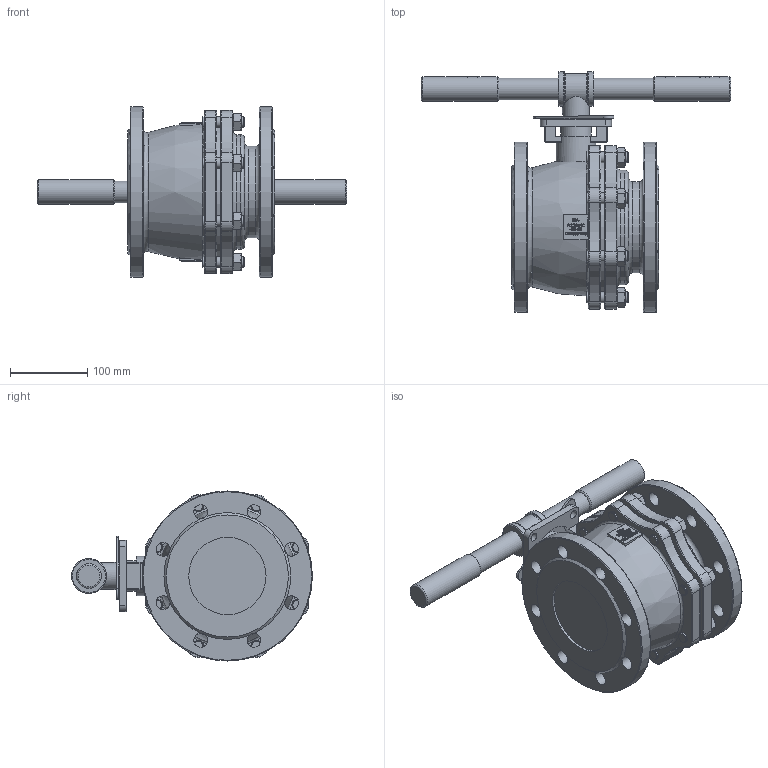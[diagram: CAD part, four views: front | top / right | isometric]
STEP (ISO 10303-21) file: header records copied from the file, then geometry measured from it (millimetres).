
FILE_DESCRIPTION((''),'2;1');
FILE_NAME('K:\Inventor\1 Artikel\12) Flanschen-Kugelhähne\12a) manuell\Econosto\460-GS, PN16, 7249\460-GS, DN100\460-GS, DN100, 3D\460-GS, DN100, PN16, HH, 3D.stp','2019-11-11T14:27:31',('claudia'),(''),'Autodesk Inventor 2013','Autodesk Inventor 2013','');
FILE_SCHEMA(('AUTOMOTIVE_DESIGN { 1 0 10303 214 1 1 1 1 }'));
Length unit declared in the file: millimetre
Products named in the file (1): Bauteil38
Bounding box: 400 x 311.5 x 220 mm (x, y, z)
Surface area: 385800.2 mm2 (no closed solid volume)
Topology: 0 solids, 1 shells, 1742 faces, 4763 edges, 3132 vertices
Faces by surface type: plane 808, bspline 649, cylinder 171, torus 80, cone 34
Full cylindrical faces by diameter (mm): 10.998 x1, 11 x4, 14 x24, 15 x8, 18 x16, 28 x2, 32 x2, 35 x1, 40 x1, 45 x2, 51 x1, 64 x1, 100 x2, 118 x1, 148 x1, 177.027 x1, 220 x2
Entity records: 116372 total; most frequent: CARTESIAN_POINT 77068, ORIENTED_EDGE 8992, DIRECTION 5558, EDGE_CURVE 4496, VERTEX_POINT 3020, VECTOR 2308, LINE 2308, EDGE_LOOP 2052
